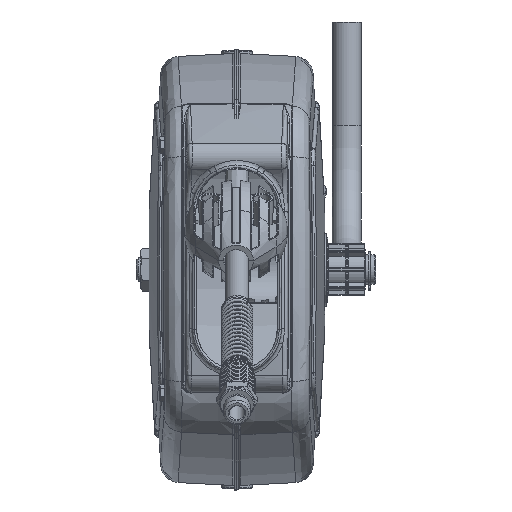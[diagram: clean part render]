
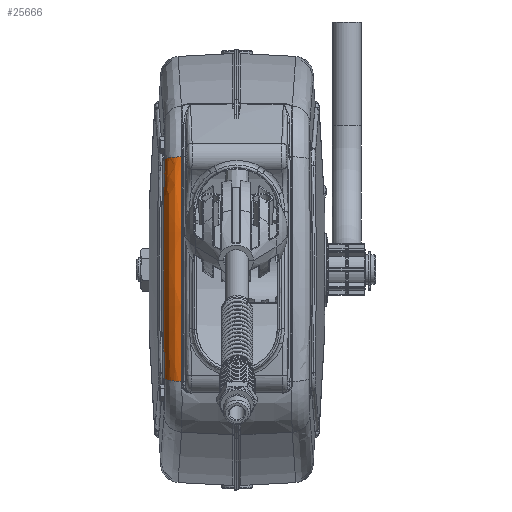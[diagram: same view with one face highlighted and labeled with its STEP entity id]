
A CAD part, top view. The second image highlights one B-rep face of the part: STEP entity #25666.
In plain terms, the highlighted free-form (B-spline) face has degree [3, 2] with [12, 3] control points.
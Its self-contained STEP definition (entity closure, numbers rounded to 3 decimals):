
#254 = CARTESIAN_POINT ( 'NONE',  ( -26.834, -36.207, 126.53 ) ) ;
#556 = CARTESIAN_POINT ( 'NONE',  ( -26.96, 18.104, 128.176 ) ) ;
#2013 = DIRECTION ( 'NONE',  ( 0., 0.181, -0.983 ) ) ;
#2881 = CARTESIAN_POINT ( 'NONE',  ( -35.056, -9.012, 128.164 ) ) ;
#3070 = AXIS2_PLACEMENT_3D ( 'NONE', #32088, #13758, #27958 ) ;
#3188 = CARTESIAN_POINT ( 'NONE',  ( -34.903, 36.268, 126.096 ) ) ;
#3338 = CARTESIAN_POINT ( 'NONE',  ( -34.753, -49.85, 124.018 ) ) ;
#5182 = EDGE_CURVE ( 'NONE', #13232, #11277, #22238, .T. ) ;
#6171 = CARTESIAN_POINT ( 'NONE',  ( -35.348, 35.294, 118.082 ) ) ;
#6249 = CARTESIAN_POINT ( 'NONE',  ( -26.865, -31.666, 126.943 ) ) ;
#6713 = CARTESIAN_POINT ( 'NONE',  ( -26.733, -45.274, 125.182 ) ) ;
#6814 = CARTESIAN_POINT ( 'NONE',  ( -26.617, 54.311, 123.624 ) ) ;
#6858 = CARTESIAN_POINT ( 'NONE',  ( -35.132, -52.886, 115.243 ) ) ;
#7519 = B_SPLINE_CURVE_WITH_KNOTS ( 'NONE', 3,
 ( #34437, #17177, #14718, #556, #35204, #21525, #254, #35666, #24798 ),
 .UNSPECIFIED., .F., .F.,
 ( 4, 2, 1, 2, 4 ),
 ( 0., 0.027, 0.054, 0.081, 0.109 ),
 .UNSPECIFIED. ) ;
#8592 = CARTESIAN_POINT ( 'NONE',  ( -26.617, -54.311, 123.624 ) ) ;
#9265 = CARTESIAN_POINT ( 'NONE',  ( -35.341, -35.236, 117.988 ) ) ;
#9424 = CARTESIAN_POINT ( 'NONE',  ( -35.246, -44.071, 116.745 ) ) ;
#9661 = CARTESIAN_POINT ( 'NONE',  ( -34.695, 54.344, 123.188 ) ) ;
#9967 = CARTESIAN_POINT ( 'NONE',  ( -35.193, -48.514, 116.053 ) ) ;
#11277 = VERTEX_POINT ( 'NONE', #25177 ) ;
#12588 = CARTESIAN_POINT ( 'NONE',  ( -35.132, 52.886, 115.243 ) ) ;
#12962 = CARTESIAN_POINT ( 'NONE',  ( -35.474, 17.685, 119.696 ) ) ;
#13232 = VERTEX_POINT ( 'NONE', #39116 ) ;
#13348 = CARTESIAN_POINT ( 'NONE',  ( -35.056, 9.112, 128.161 ) ) ;
#13758 = DIRECTION ( 'NONE',  ( 0.014, 0.983, -0.181 ) ) ;
#13810 = CARTESIAN_POINT ( 'NONE',  ( -26.833, 36.242, 126.525 ) ) ;
#13956 = CARTESIAN_POINT ( 'NONE',  ( -26.96, 18.155, 128.173 ) ) ;
#14718 = CARTESIAN_POINT ( 'NONE',  ( -26.834, 36.207, 126.53 ) ) ;
#15316 = VERTEX_POINT ( 'NONE', #6814 ) ;
#16339 = CARTESIAN_POINT ( 'NONE',  ( -35.254, 44.093, 116.872 ) ) ;
#16491 = CARTESIAN_POINT ( 'NONE',  ( -35.132, -52.886, 115.243 ) ) ;
#16705 = CARTESIAN_POINT ( 'NONE',  ( -26.617, 54.311, 123.624 ) ) ;
#16712 = ORIENTED_EDGE ( 'NONE', *, *, #20435, .T. ) ;
#16865 = CARTESIAN_POINT ( 'NONE',  ( -26.96, -18.066, 128.179 ) ) ;
#17177 = CARTESIAN_POINT ( 'NONE',  ( -26.74, 45.259, 125.292 ) ) ;
#19576 = DIRECTION ( 'NONE',  ( -0.014, 0.983, 0.181 ) ) ;
#20428 = CARTESIAN_POINT ( 'NONE',  ( -35.38, -30.84, 118.492 ) ) ;
#20435 = EDGE_CURVE ( 'NONE', #13232, #39163, #29141, .T. ) ;
#20742 = CARTESIAN_POINT ( 'NONE',  ( -34.813, 45.311, 124.856 ) ) ;
#21054 = CARTESIAN_POINT ( 'NONE',  ( -35.474, 17.682, 119.696 ) ) ;
#21525 = CARTESIAN_POINT ( 'NONE',  ( -26.96, -18.104, 128.176 ) ) ;
#22238 = B_SPLINE_CURVE_WITH_KNOTS ( 'NONE', 3,
 ( #16491, #30532, #34210, #9424, #34058, #9265, #27176, #37617, #30687, #27329, #12962, #6171, #16339, #26881 ),
 .UNSPECIFIED., .F., .F.,
 ( 4, 2, 2, 2, 2, 2, 4 ),
 ( 0., 0.007, 0.013, 0.027, 0.054, 0.08, 0.107 ),
 .UNSPECIFIED. ) ;
#22285 = ORIENTED_EDGE ( 'NONE', *, *, #35067, .F. ) ;
#24016 = CARTESIAN_POINT ( 'NONE',  ( -26.617, -54.311, 123.624 ) ) ;
#24176 = CARTESIAN_POINT ( 'NONE',  ( -35.254, 44.095, 116.871 ) ) ;
#24340 = CARTESIAN_POINT ( 'NONE',  ( -26.992, 9.105, 128.584 ) ) ;
#24494 = CARTESIAN_POINT ( 'NONE',  ( -35.507, 8.868, 120.099 ) ) ;
#24798 = CARTESIAN_POINT ( 'NONE',  ( -26.617, -54.311, 123.624 ) ) ;
#25177 = CARTESIAN_POINT ( 'NONE',  ( -35.132, 52.886, 115.243 ) ) ;
#25666 = ADVANCED_FACE ( 'NONE', ( #35531 ), #29448, .T. ) ;
#25727 = EDGE_CURVE ( 'NONE', #15316, #39163, #7519, .T. ) ;
#26881 = CARTESIAN_POINT ( 'NONE',  ( -35.132, 52.886, 115.243 ) ) ;
#27176 = CARTESIAN_POINT ( 'NONE',  ( -35.381, -30.821, 118.494 ) ) ;
#27329 = CARTESIAN_POINT ( 'NONE',  ( -35.507, 8.874, 120.098 ) ) ;
#27859 = CARTESIAN_POINT ( 'NONE',  ( -35.341, -35.255, 117.986 ) ) ;
#27958 = DIRECTION ( 'NONE',  ( 0., -0.181, -0.983 ) ) ;
#28012 = CARTESIAN_POINT ( 'NONE',  ( -35.348, 35.295, 118.082 ) ) ;
#28773 = EDGE_LOOP ( 'NONE', ( #22285, #31875, #16712, #40815 ) ) ;
#29141 = CIRCLE ( 'NONE', #36196, 9. ) ;
#29448 =( BOUNDED_SURFACE ( )  B_SPLINE_SURFACE ( 3, 2, ( 
 ( #12588, #9661, #16705 ),
 ( #24176, #20742, #41697 ),
 ( #28012, #3188, #13810 ),
 ( #21054, #45418, #13956 ),
 ( #24494, #13348, #24340 ),
 ( #38474, #2881, #37998 ),
 ( #38627, #30915, #16865 ),
 ( #20428, #38324, #6249 ),
 ( #27859, #45730, #38159 ),
 ( #31527, #45107, #6713 ),
 ( #9967, #3338, #35054 ),
 ( #6858, #31371, #24016 ) ),
 .UNSPECIFIED., .F., .F., .F. ) 
 B_SPLINE_SURFACE_WITH_KNOTS ( ( 4, 2, 2, 2, 2, 4 ),
 ( 3, 3 ),
 ( 0.097, 0.124, 0.15, 0.177, 0.19, 0.203 ),
 ( 0., 1. ),
 .UNSPECIFIED. ) 
 GEOMETRIC_REPRESENTATION_ITEM ( )  RATIONAL_B_SPLINE_SURFACE ( (
 ( 1., 0.744, 1.),
 ( 1., 0.744, 1.),
 ( 1., 0.744, 1.),
 ( 1., 0.744, 1.),
 ( 1., 0.744, 1.),
 ( 1., 0.744, 1.),
 ( 1., 0.744, 1.),
 ( 1., 0.744, 1.),
 ( 1., 0.744, 1.),
 ( 1., 0.744, 1.),
 ( 1., 0.744, 1.),
 ( 1., 0.744, 1.) ) ) 
 REPRESENTATION_ITEM ( '' )  SURFACE ( )  );
#30532 = CARTESIAN_POINT ( 'NONE',  ( -35.163, -50.688, 115.65 ) ) ;
#30687 = CARTESIAN_POINT ( 'NONE',  ( -35.507, -8.758, 120.102 ) ) ;
#30915 = CARTESIAN_POINT ( 'NONE',  ( -35.025, -18.081, 127.755 ) ) ;
#31371 = CARTESIAN_POINT ( 'NONE',  ( -34.695, -54.344, 123.188 ) ) ;
#31527 = CARTESIAN_POINT ( 'NONE',  ( -35.247, -44.089, 116.768 ) ) ;
#31875 = ORIENTED_EDGE ( 'NONE', *, *, #5182, .F. ) ;
#32088 = CARTESIAN_POINT ( 'NONE',  ( -26.146, 52.676, 114.787 ) ) ;
#34058 = CARTESIAN_POINT ( 'NONE',  ( -35.271, -41.861, 117.075 ) ) ;
#34210 = CARTESIAN_POINT ( 'NONE',  ( -35.192, -48.485, 116.032 ) ) ;
#34437 = CARTESIAN_POINT ( 'NONE',  ( -26.617, 54.311, 123.624 ) ) ;
#35054 = CARTESIAN_POINT ( 'NONE',  ( -26.678, -49.819, 124.452 ) ) ;
#35067 = EDGE_CURVE ( 'NONE', #11277, #15316, #42377, .T. ) ;
#35204 = CARTESIAN_POINT ( 'NONE',  ( -27.024, 0., 128.995 ) ) ;
#35531 = FACE_OUTER_BOUND ( 'NONE', #28773, .T. ) ;
#35666 = CARTESIAN_POINT ( 'NONE',  ( -26.74, -45.259, 125.292 ) ) ;
#36196 = AXIS2_PLACEMENT_3D ( 'NONE', #44077, #19576, #2013 ) ;
#37617 = CARTESIAN_POINT ( 'NONE',  ( -35.475, -17.58, 119.703 ) ) ;
#37998 = CARTESIAN_POINT ( 'NONE',  ( -26.992, -9.005, 128.587 ) ) ;
#38159 = CARTESIAN_POINT ( 'NONE',  ( -26.826, -36.201, 126.427 ) ) ;
#38324 = CARTESIAN_POINT ( 'NONE',  ( -34.934, -31.688, 126.516 ) ) ;
#38474 = CARTESIAN_POINT ( 'NONE',  ( -35.507, -8.771, 120.102 ) ) ;
#38627 = CARTESIAN_POINT ( 'NONE',  ( -35.475, -17.596, 119.702 ) ) ;
#39116 = CARTESIAN_POINT ( 'NONE',  ( -35.132, -52.886, 115.243 ) ) ;
#39163 = VERTEX_POINT ( 'NONE', #8592 ) ;
#40815 = ORIENTED_EDGE ( 'NONE', *, *, #25727, .F. ) ;
#41697 = CARTESIAN_POINT ( 'NONE',  ( -26.74, 45.28, 125.288 ) ) ;
#42377 = CIRCLE ( 'NONE', #3070, 9. ) ;
#44077 = CARTESIAN_POINT ( 'NONE',  ( -26.146, -52.676, 114.787 ) ) ;
#45107 = CARTESIAN_POINT ( 'NONE',  ( -34.806, -45.303, 124.75 ) ) ;
#45418 = CARTESIAN_POINT ( 'NONE',  ( -35.025, 18.169, 127.749 ) ) ;
#45730 = CARTESIAN_POINT ( 'NONE',  ( -34.896, -36.226, 125.998 ) ) ;
